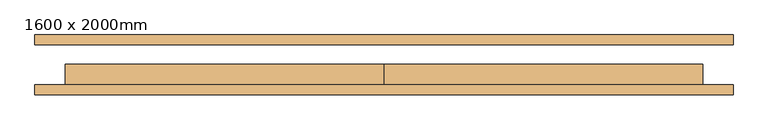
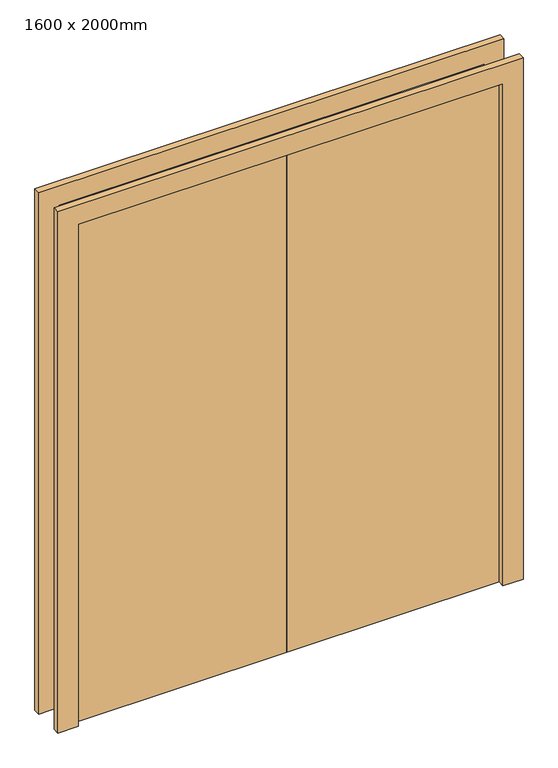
"""IFC4 building model written with IfcOpenShell, lengths in millimetres: door geometry, DvoukridleOtevirave : 1600 x 2000mm."""

from ifc_helpers import new_model, si_unit, frame, origin, origin_with_axes, place, context, project, spatial, polyline, outline, extrude, source, transform, mapped, element, save


def door_1600_x_2000mm_db1aa0cc(model_context):
    return source(origin(), model_context, "Body", "SweptSolid", [
        extrude(outline(polyline([(0.0, -50.0), (0.0, 1.0), (800.0, 1.0), (800.0, -50.0), (0.0, -50.0)])), origin_with_axes(), (0.0, 0.0, 1.0), 2000.0),
        extrude(outline(polyline([(-800.0, -50.0), (-800.0, 1.0), (0.0, 1.0), (0.0, -50.0), (-800.0, -50.0)])), origin_with_axes(), (0.0, 0.0, 1.0), 2000.0),
        extrude(outline(polyline([(2000.0, -800.0), (2000.0, 800.0), (0.0, 800.0), (0.0, 876.0), (2076.0, 876.0), (2076.0, -876.0), (0.0, -876.0), (0.0, -800.0), (2000.0, -800.0)])), frame((0.0, 50.0, 0.0), z_axis=(0.0, 1.0, 0.0), x_axis=(0.0, 0.0, 1.0)), (0.0, 0.0, 1.0), 25.0),
        extrude(outline(polyline([(2000.0, -800.0), (2000.0, 800.0), (0.0, 800.0), (0.0, 876.0), (2076.0, 876.0), (2076.0, -876.0), (0.0, -876.0), (0.0, -800.0), (2000.0, -800.0)])), frame((0.0, -75.0, 0.0), z_axis=(0.0, 1.0, 0.0), x_axis=(0.0, 0.0, 1.0)), (0.0, 0.0, 1.0), 25.0),
    ])


if __name__ == "__main__":
    model = new_model("IFC4")
    model_context = context("Model", 3, world=origin())
    ifc_project = project(units=[si_unit("LENGTHUNIT", "METRE", prefix="MILLI")], contexts=[model_context])
    site = spatial("IfcSite", under=ifc_project)
    building = spatial("IfcBuilding", under=site)
    placement = place(None, origin())
    door_1600_x_2000mm_shape = door_1600_x_2000mm_db1aa0cc(model_context)
    element("IfcDoor", 1, ObjectType="DvoukridleOtevirave : 1600 x 2000mm", at=placement, inside=building, context=model_context, shape_type="MappedRepresentation", body=[
        mapped(door_1600_x_2000mm_shape, transform((0.0, 0.0, 0.0), x_axis=(1.0, 0.0, 0.0), y_axis=(0.0, 1.0, 0.0), z_axis=(0.0, 0.0, 1.0))),
    ])
    save(model, "model.ifc")
